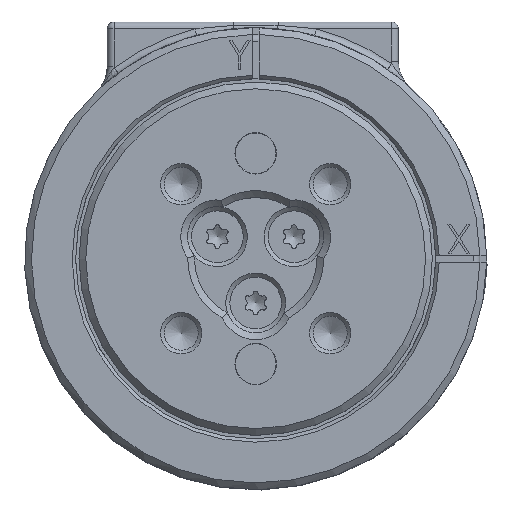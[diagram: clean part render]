
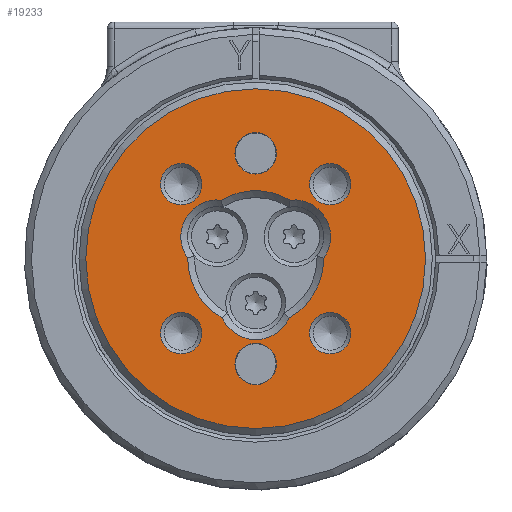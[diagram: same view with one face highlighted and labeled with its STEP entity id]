
A CAD part, top view. The second image highlights one B-rep face of the part: STEP entity #19233.
In plain terms, the highlighted planar face has unit normal (0, 0, 1).
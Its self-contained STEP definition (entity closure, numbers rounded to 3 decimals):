
#2821 = CIRCLE ( 'NONE', #52656, 5. ) ;
#3072 = DIRECTION ( 'NONE',  ( 1., 0., 0. ) ) ;
#4789 = EDGE_CURVE ( 'NONE', #101265, #77897, #2821, .T. ) ;
#6364 = CARTESIAN_POINT ( 'NONE',  ( -5., 0.039, 0. ) ) ;
#7971 = DIRECTION ( 'NONE',  ( 0., 0., 1. ) ) ;
#8611 = CIRCLE ( 'NONE', #75770, 12.5 ) ;
#9644 = EDGE_LOOP ( 'NONE', ( #69586 ) ) ;
#10439 = ORIENTED_EDGE ( 'NONE', *, *, #12306, .T. ) ;
#11740 = DIRECTION ( 'NONE',  ( 1., 0., 0. ) ) ;
#11907 = DIRECTION ( 'NONE',  ( 1., 0., 0. ) ) ;
#12306 = EDGE_CURVE ( 'NONE', #79197, #101265, #26679, .T. ) ;
#12641 = VERTEX_POINT ( 'NONE', #49281 ) ;
#14071 = VERTEX_POINT ( 'NONE', #36252 ) ;
#15835 = DIRECTION ( 'NONE',  ( 1., 0., 0. ) ) ;
#15994 = CARTESIAN_POINT ( 'NONE',  ( 0., 0., 0. ) ) ;
#16164 = DIRECTION ( 'NONE',  ( 1., 0., 0. ) ) ;
#17588 = CARTESIAN_POINT ( 'NONE',  ( 0., -7.75, 0. ) ) ;
#19233 = ADVANCED_FACE ( 'NONE', ( #44216, #25049, #60487, #97135, #51466, #88135, #43617, #107976 ), #70677, .T. ) ;
#19879 = VERTEX_POINT ( 'NONE', #81775 ) ;
#20334 = DIRECTION ( 'NONE',  ( 0., 0., -1. ) ) ;
#20528 = DIRECTION ( 'NONE',  ( 0., 0., 1. ) ) ;
#20921 = AXIS2_PLACEMENT_3D ( 'NONE', #84614, #20334, #11907 ) ;
#21254 = AXIS2_PLACEMENT_3D ( 'NONE', #115874, #70151, #100762 ) ;
#22300 = DIRECTION ( 'NONE',  ( 0., 0., 1. ) ) ;
#23379 = ORIENTED_EDGE ( 'NONE', *, *, #91806, .F. ) ;
#25049 = FACE_OUTER_BOUND ( 'NONE', #72066, .T. ) ;
#25224 = DIRECTION ( 'NONE',  ( 0., 0., -1. ) ) ;
#25520 = CARTESIAN_POINT ( 'NONE',  ( 2.534, 4.31, 0. ) ) ;
#25626 = DIRECTION ( 'NONE',  ( 1., 0., 0. ) ) ;
#26679 = CIRCLE ( 'NONE', #20921, 2.7 ) ;
#26932 = ORIENTED_EDGE ( 'NONE', *, *, #57556, .T. ) ;
#27252 = CARTESIAN_POINT ( 'NONE',  ( 0., 0., 0. ) ) ;
#27805 = ORIENTED_EDGE ( 'NONE', *, *, #50450, .F. ) ;
#27922 = EDGE_LOOP ( 'NONE', ( #106378 ) ) ;
#30174 = CARTESIAN_POINT ( 'NONE',  ( 5.48, 5.48, 0. ) ) ;
#30404 = AXIS2_PLACEMENT_3D ( 'NONE', #78688, #116582, #115412 ) ;
#30570 = CARTESIAN_POINT ( 'NONE',  ( -3.955, 5.48, 0. ) ) ;
#31012 = DIRECTION ( 'NONE',  ( 0., 0., 1. ) ) ;
#33775 = EDGE_CURVE ( 'NONE', #74562, #74562, #107410, .T. ) ;
#33804 = VERTEX_POINT ( 'NONE', #113701 ) ;
#34232 = EDGE_CURVE ( 'NONE', #19879, #19879, #90118, .T. ) ;
#36252 = CARTESIAN_POINT ( 'NONE',  ( -2.534, 4.31, 0. ) ) ;
#37056 = CIRCLE ( 'NONE', #104236, 2.7 ) ;
#39030 = CIRCLE ( 'NONE', #88932, 1.525 ) ;
#40028 = EDGE_LOOP ( 'NONE', ( #26932, #10439, #70373, #101328, #107652, #106433 ) ) ;
#41104 = EDGE_CURVE ( 'NONE', #12641, #12641, #39030, .T. ) ;
#41500 = CARTESIAN_POINT ( 'NONE',  ( 0., 0., 0. ) ) ;
#43617 = FACE_BOUND ( 'NONE', #9644, .T. ) ;
#44216 = FACE_BOUND ( 'NONE', #40028, .T. ) ;
#45293 = CARTESIAN_POINT ( 'NONE',  ( 12.5, 0., 0. ) ) ;
#45969 = CIRCLE ( 'NONE', #92064, 1.525 ) ;
#46805 = CARTESIAN_POINT ( 'NONE',  ( -2.466, -4.35, 0. ) ) ;
#47758 = EDGE_LOOP ( 'NONE', ( #23379 ) ) ;
#48657 = ORIENTED_EDGE ( 'NONE', *, *, #113119, .T. ) ;
#49281 = CARTESIAN_POINT ( 'NONE',  ( 1.525, -7.75, 0. ) ) ;
#50450 = EDGE_CURVE ( 'NONE', #79259, #79259, #102445, .T. ) ;
#50766 = DIRECTION ( 'NONE',  ( 1., 0., 0. ) ) ;
#50821 = DIRECTION ( 'NONE',  ( 0., 0., 1. ) ) ;
#51466 = FACE_BOUND ( 'NONE', #56860, .T. ) ;
#52656 = AXIS2_PLACEMENT_3D ( 'NONE', #27252, #98155, #15835 ) ;
#54227 = DIRECTION ( 'NONE',  ( 1., 0., 0. ) ) ;
#56860 = EDGE_LOOP ( 'NONE', ( #80897 ) ) ;
#57556 = EDGE_CURVE ( 'NONE', #33804, #79197, #82146, .T. ) ;
#58014 = CARTESIAN_POINT ( 'NONE',  ( -5.48, 5.48, 0. ) ) ;
#58608 = AXIS2_PLACEMENT_3D ( 'NONE', #15994, #89292, #25626 ) ;
#59251 = EDGE_CURVE ( 'NONE', #79851, #79851, #45969, .T. ) ;
#59514 = AXIS2_PLACEMENT_3D ( 'NONE', #58014, #31012, #50766 ) ;
#59860 = CARTESIAN_POINT ( 'NONE',  ( -5.48, -5.48, 0. ) ) ;
#60487 = FACE_BOUND ( 'NONE', #81340, .T. ) ;
#68970 = VERTEX_POINT ( 'NONE', #45293 ) ;
#69586 = ORIENTED_EDGE ( 'NONE', *, *, #33775, .F. ) ;
#70151 = DIRECTION ( 'NONE',  ( 0., 0., -1. ) ) ;
#70373 = ORIENTED_EDGE ( 'NONE', *, *, #4789, .T. ) ;
#70677 = PLANE ( 'NONE',  #58608 ) ;
#72066 = EDGE_LOOP ( 'NONE', ( #48657 ) ) ;
#74562 = VERTEX_POINT ( 'NONE', #82979 ) ;
#74914 = CIRCLE ( 'NONE', #21254, 2.7 ) ;
#75770 = AXIS2_PLACEMENT_3D ( 'NONE', #41500, #22300, #3072 ) ;
#77897 = VERTEX_POINT ( 'NONE', #6364 ) ;
#78688 = CARTESIAN_POINT ( 'NONE',  ( 0., 0., 0. ) ) ;
#78794 = EDGE_LOOP ( 'NONE', ( #98707 ) ) ;
#79197 = VERTEX_POINT ( 'NONE', #118009 ) ;
#79259 = VERTEX_POINT ( 'NONE', #81042 ) ;
#79851 = VERTEX_POINT ( 'NONE', #117748 ) ;
#80897 = ORIENTED_EDGE ( 'NONE', *, *, #34232, .F. ) ;
#81042 = CARTESIAN_POINT ( 'NONE',  ( 7.005, 5.48, 0. ) ) ;
#81340 = EDGE_LOOP ( 'NONE', ( #27805 ) ) ;
#81775 = CARTESIAN_POINT ( 'NONE',  ( -3.955, -5.48, 0. ) ) ;
#82146 = CIRCLE ( 'NONE', #30404, 5. ) ;
#82979 = CARTESIAN_POINT ( 'NONE',  ( 1.525, 7.75, 0. ) ) ;
#83233 = CARTESIAN_POINT ( 'NONE',  ( 5.48, -5.48, 0. ) ) ;
#84614 = CARTESIAN_POINT ( 'NONE',  ( 0., -3.25, 0. ) ) ;
#84799 = DIRECTION ( 'NONE',  ( 1., 0., 0. ) ) ;
#86204 = AXIS2_PLACEMENT_3D ( 'NONE', #94431, #20528, #84799 ) ;
#87484 = DIRECTION ( 'NONE',  ( 1., 0., 0. ) ) ;
#88135 = FACE_BOUND ( 'NONE', #47758, .T. ) ;
#88932 = AXIS2_PLACEMENT_3D ( 'NONE', #17588, #7971, #54227 ) ;
#89292 = DIRECTION ( 'NONE',  ( 0., 0., 1. ) ) ;
#90118 = CIRCLE ( 'NONE', #105532, 1.525 ) ;
#90680 = DIRECTION ( 'NONE',  ( 0., 0., -1. ) ) ;
#91806 = EDGE_CURVE ( 'NONE', #103258, #103258, #95976, .T. ) ;
#92064 = AXIS2_PLACEMENT_3D ( 'NONE', #83233, #101297, #11740 ) ;
#94431 = CARTESIAN_POINT ( 'NONE',  ( 0., 7.75, 0. ) ) ;
#94500 = EDGE_CURVE ( 'NONE', #98120, #33804, #74914, .T. ) ;
#95976 = CIRCLE ( 'NONE', #59514, 1.525 ) ;
#97135 = FACE_BOUND ( 'NONE', #27922, .T. ) ;
#98120 = VERTEX_POINT ( 'NONE', #25520 ) ;
#98155 = DIRECTION ( 'NONE',  ( 0., 0., -1. ) ) ;
#98483 = CARTESIAN_POINT ( 'NONE',  ( 0., 0., 0. ) ) ;
#98707 = ORIENTED_EDGE ( 'NONE', *, *, #41104, .F. ) ;
#100762 = DIRECTION ( 'NONE',  ( 1., 0., 0. ) ) ;
#101265 = VERTEX_POINT ( 'NONE', #46805 ) ;
#101297 = DIRECTION ( 'NONE',  ( 0., 0., 1. ) ) ;
#101328 = ORIENTED_EDGE ( 'NONE', *, *, #109820, .T. ) ;
#102404 = AXIS2_PLACEMENT_3D ( 'NONE', #98483, #25224, #16164 ) ;
#102445 = CIRCLE ( 'NONE', #108223, 1.525 ) ;
#103258 = VERTEX_POINT ( 'NONE', #30570 ) ;
#103485 = DIRECTION ( 'NONE',  ( 1., 0., 0. ) ) ;
#104236 = AXIS2_PLACEMENT_3D ( 'NONE', #116577, #90680, #107565 ) ;
#105532 = AXIS2_PLACEMENT_3D ( 'NONE', #59860, #50821, #87484 ) ;
#106378 = ORIENTED_EDGE ( 'NONE', *, *, #59251, .F. ) ;
#106433 = ORIENTED_EDGE ( 'NONE', *, *, #94500, .T. ) ;
#107410 = CIRCLE ( 'NONE', #86204, 1.525 ) ;
#107565 = DIRECTION ( 'NONE',  ( 1., 0., 0. ) ) ;
#107652 = ORIENTED_EDGE ( 'NONE', *, *, #109843, .T. ) ;
#107976 = FACE_BOUND ( 'NONE', #78794, .T. ) ;
#108223 = AXIS2_PLACEMENT_3D ( 'NONE', #30174, #111343, #103485 ) ;
#109820 = EDGE_CURVE ( 'NONE', #77897, #14071, #37056, .T. ) ;
#109843 = EDGE_CURVE ( 'NONE', #14071, #98120, #110072, .T. ) ;
#110072 = CIRCLE ( 'NONE', #102404, 5. ) ;
#111343 = DIRECTION ( 'NONE',  ( 0., 0., 1. ) ) ;
#113119 = EDGE_CURVE ( 'NONE', #68970, #68970, #8611, .T. ) ;
#113701 = CARTESIAN_POINT ( 'NONE',  ( 5., 0.039, 0. ) ) ;
#115412 = DIRECTION ( 'NONE',  ( 1., 0., 0. ) ) ;
#115874 = CARTESIAN_POINT ( 'NONE',  ( 2.815, 1.625, 0. ) ) ;
#116577 = CARTESIAN_POINT ( 'NONE',  ( -2.815, 1.625, 0. ) ) ;
#116582 = DIRECTION ( 'NONE',  ( 0., 0., -1. ) ) ;
#117748 = CARTESIAN_POINT ( 'NONE',  ( 7.005, -5.48, 0. ) ) ;
#118009 = CARTESIAN_POINT ( 'NONE',  ( 2.466, -4.35, 0. ) ) ;
